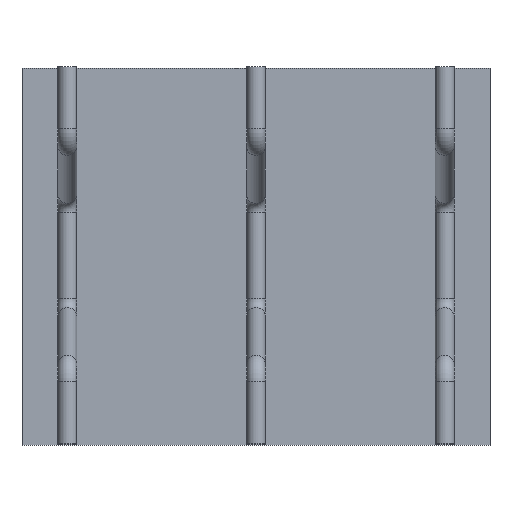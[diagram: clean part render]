
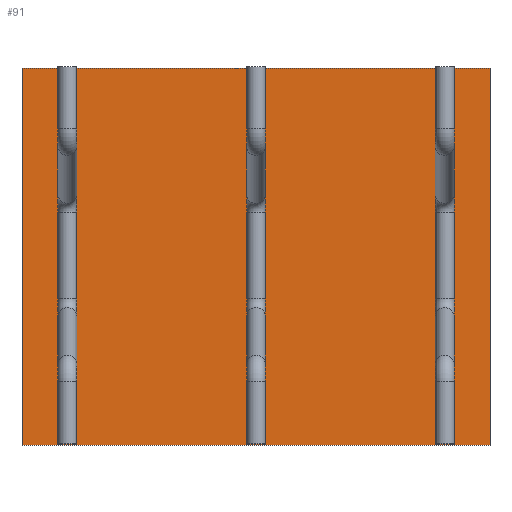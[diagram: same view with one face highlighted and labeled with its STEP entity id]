
A CAD part, top view. The second image highlights one B-rep face of the part: STEP entity #91.
In plain terms, the highlighted planar face has unit normal (0, 0, 1).
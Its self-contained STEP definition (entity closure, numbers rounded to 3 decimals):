
#52=CARTESIAN_POINT('Axis2P3D Location',(0.,0.,0.)) ;
#57=CARTESIAN_POINT('Line Origine',(0.,500.,0.)) ;
#61=CARTESIAN_POINT('Vertex',(620.,500.,0.)) ;
#63=CARTESIAN_POINT('Vertex',(-620.,500.,0.)) ;
#66=CARTESIAN_POINT('Line Origine',(-620.,0.,0.)) ;
#70=CARTESIAN_POINT('Vertex',(-620.,-500.,0.)) ;
#73=CARTESIAN_POINT('Line Origine',(0.,-500.,0.)) ;
#77=CARTESIAN_POINT('Vertex',(620.,-500.,0.)) ;
#80=CARTESIAN_POINT('Line Origine',(620.,0.,0.)) ;
#53=DIRECTION('Axis2P3D Direction',(0.,0.,1.)) ;
#54=DIRECTION('Axis2P3D XDirection',(1.,0.,0.)) ;
#58=DIRECTION('Vector Direction',(1.,0.,0.)) ;
#67=DIRECTION('Vector Direction',(0.,1.,0.)) ;
#74=DIRECTION('Vector Direction',(-1.,0.,0.)) ;
#81=DIRECTION('Vector Direction',(0.,-1.,0.)) ;
#55=AXIS2_PLACEMENT_3D('Plane Axis2P3D',#52,#53,#54) ;
#86=ORIENTED_EDGE('',*,*,#65,.T.) ;
#87=ORIENTED_EDGE('',*,*,#72,.T.) ;
#88=ORIENTED_EDGE('',*,*,#79,.T.) ;
#89=ORIENTED_EDGE('',*,*,#84,.T.) ;
#59=VECTOR('Line Direction',#58,1.) ;
#68=VECTOR('Line Direction',#67,1.) ;
#75=VECTOR('Line Direction',#74,1.) ;
#82=VECTOR('Line Direction',#81,1.) ;
#91=ADVANCED_FACE('Fill.1',(#90),#56,.T.) ;
#65=EDGE_CURVE('',#62,#64,#60,.F.) ;
#72=EDGE_CURVE('',#64,#71,#69,.F.) ;
#79=EDGE_CURVE('',#71,#78,#76,.F.) ;
#84=EDGE_CURVE('',#78,#62,#83,.F.) ;
#85=EDGE_LOOP('',(#86,#87,#88,#89)) ;
#90=FACE_OUTER_BOUND('',#85,.T.) ;
#60=LINE('Line',#57,#59) ;
#69=LINE('Line',#66,#68) ;
#76=LINE('Line',#73,#75) ;
#83=LINE('Line',#80,#82) ;
#56=PLANE('',#55) ;
#62=VERTEX_POINT('',#61) ;
#64=VERTEX_POINT('',#63) ;
#71=VERTEX_POINT('',#70) ;
#78=VERTEX_POINT('',#77) ;
